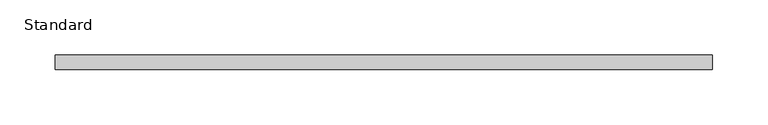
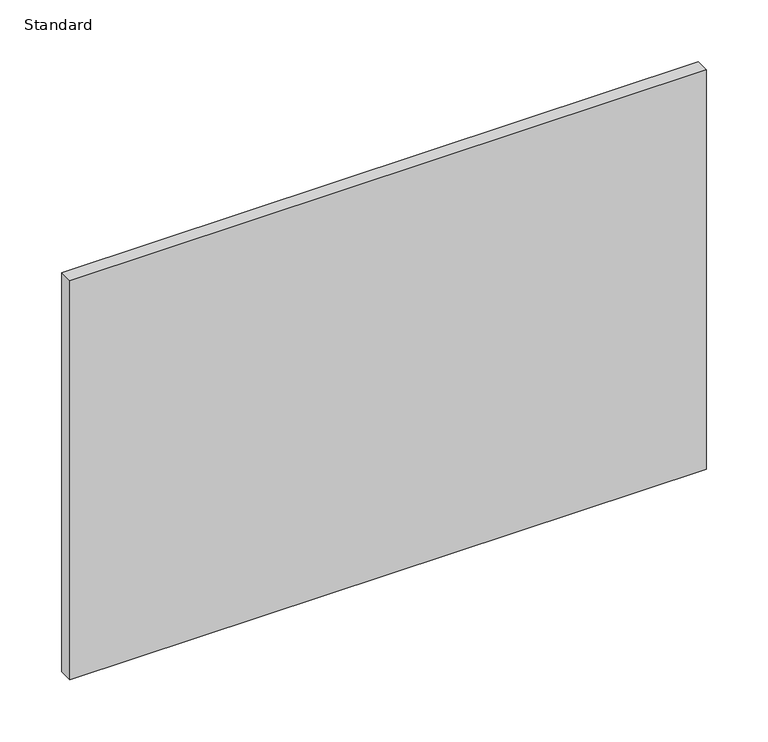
"""IFC4 building model written with IfcOpenShell, lengths in millimetres: furniture geometry, X_Locker-Duracube-Door : Standard."""

import ifcopenshell
import ifcopenshell.guid

model = None  # the IFC model being written
_history = None  # IfcOwnerHistory: only IFC2X3 demands one
_inside = {}  # id of a spatial element -> (the spatial element, [elements in it])
_under = {}  # id of a project, library or spatial element -> (it, [spatial elements below it])
_declared = {}  # id of a project -> (the project, [libraries it declares])
_typed = {}  # id of a type object -> (the type object, [elements of that type])
_made_of = {}  # id of a material, layer set ... -> (it, [elements and type objects made of it])


def new_model(schema):
    """Start an empty IFC model of exactly this schema.

    Asked for "IFC4X3", IfcOpenShell would pick the latest addendum, in which some entities
    have other attributes; the version numbers below select the first issue.
    IFC2X3 requires an IfcOwnerHistory on every rooted entity: one is made here for all.
    """
    global model, _history
    if schema == "IFC4X3":
        model = ifcopenshell.file(schema_version=(4, 3, 0, 0))
    else:
        model = ifcopenshell.file(schema=schema)
    _inside.clear()
    _under.clear()
    _declared.clear()
    _typed.clear()
    _made_of.clear()
    _history = None
    if model.schema == "IFC2X3":
        org = make("IfcOrganization", Name="unknown")
        user = make(
            "IfcPersonAndOrganization",
            ThePerson=make("IfcPerson", FamilyName="unknown"),
            TheOrganization=org,
        )
        app = make(
            "IfcApplication",
            ApplicationDeveloper=org,
            Version="unknown",
            ApplicationFullName="unknown",
            ApplicationIdentifier="unknown",
        )
        _history = make(
            "IfcOwnerHistory",
            OwningUser=user,
            OwningApplication=app,
            ChangeAction="ADDED",
            CreationDate=0,
        )
    return model


def make(cls, **values):
    """One entity of the class cls with the attributes given. An attribute that is None is left unset."""
    return model.create_entity(
        cls, **{name: value for name, value in values.items() if value is not None}
    )


def rooted(cls, **values):
    """An entity with a GlobalId (a new one), such as an element, a storey or a relation."""
    return make(cls, GlobalId=ifcopenshell.guid.new(), OwnerHistory=_history, **values)


def si_unit(unit_type, name, prefix=None):
    """IfcSIUnit, for example si_unit("LENGTHUNIT", "METRE", prefix="MILLI")."""
    return make("IfcSIUnit", UnitType=unit_type, Prefix=prefix, Name=name)


def assignment(units):
    """IfcUnitAssignment: the units of a project."""
    return None if units is None else make("IfcUnitAssignment", Units=units)


def point(xyz):
    """IfcCartesianPoint."""
    return None if xyz is None else make("IfcCartesianPoint", Coordinates=xyz)


def direction(xyz):
    """IfcDirection."""
    return None if xyz is None else make("IfcDirection", DirectionRatios=xyz)


def frame(location, z_axis=None, x_axis=None):
    """IfcAxis2Placement3D, a coordinate frame: its origin and axes. An axis left out is left unset."""
    return make(
        "IfcAxis2Placement3D",
        Location=point(location),
        Axis=direction(z_axis),
        RefDirection=direction(x_axis),
    )


def origin():
    """The frame at (0, 0, 0) with its axes left unset."""
    return frame((0.0, 0.0, 0.0))


def place(relative_to, where):
    """IfcLocalPlacement: puts the frame where relative to a parent placement (None: the world)."""
    return make(
        "IfcLocalPlacement", PlacementRelTo=relative_to, RelativePlacement=where
    )


def context(
    kind, dimensions, precision=None, world=None, true_north=None, identifier=None
):
    """IfcGeometricRepresentationContext, for example the 3D "Model" context."""
    return make(
        "IfcGeometricRepresentationContext",
        ContextIdentifier=identifier,
        ContextType=kind,
        CoordinateSpaceDimension=dimensions,
        Precision=precision,
        WorldCoordinateSystem=world,
        TrueNorth=true_north,
    )


def project(units=None, contexts=None):
    """IfcProject with its units and contexts."""
    return rooted(
        "IfcProject",
        Name="project",
        RepresentationContexts=contexts,
        UnitsInContext=assignment(units),
    )


def spatial(cls, under=None, at=None, **own):
    """A site, building, storey or space (cls), placed at a placement, below another one or the project."""
    s = rooted(cls, ObjectPlacement=at, **own)
    if under is not None:
        _under.setdefault(under.id(), (under, []))[1].append(s)
    return s


def polyline(points):
    """IfcPolyline through the points."""
    return make("IfcPolyline", Points=[point(p) for p in points])


def outline(outer, holes=None, kind="AREA"):
    """IfcArbitraryClosedProfileDef: a profile drawn as a closed curve; with holes, ...WithVoids."""
    if holes is None:
        return make("IfcArbitraryClosedProfileDef", ProfileType=kind, OuterCurve=outer)
    return make(
        "IfcArbitraryProfileDefWithVoids",
        ProfileType=kind,
        OuterCurve=outer,
        InnerCurves=holes,
    )


def extrude(swept, where, along, depth):
    """IfcExtrudedAreaSolid: the profile swept, set in the frame where, extruded along a direction by depth."""
    return make(
        "IfcExtrudedAreaSolid",
        SweptArea=swept,
        Position=where,
        ExtrudedDirection=direction(along),
        Depth=depth,
    )


def shape(context_of_items, identifier, shape_type, items):
    """IfcShapeRepresentation: the items that make up one representation, for example the "Body"."""
    return make(
        "IfcShapeRepresentation",
        ContextOfItems=context_of_items,
        RepresentationIdentifier=identifier,
        RepresentationType=shape_type,
        Items=items,
    )


def source(mapping_origin, context_of_items, identifier, shape_type, items):
    """IfcRepresentationMap: a shape defined once, which mapped items show again and again."""
    return make(
        "IfcRepresentationMap",
        MappingOrigin=mapping_origin,
        MappedRepresentation=shape(context_of_items, identifier, shape_type, items),
    )


def transform(
    local_origin,
    x_axis=None,
    y_axis=None,
    z_axis=None,
    scale=None,
    scale2=None,
    scale3=None,
    uniform=True,
):
    """IfcCartesianTransformationOperator3D, or its non-uniform kind. x_axis, y_axis, z_axis: its Axis1, 2, 3."""
    if uniform:
        return make(
            "IfcCartesianTransformationOperator3D",
            Axis1=direction(x_axis),
            Axis2=direction(y_axis),
            LocalOrigin=point(local_origin),
            Scale=scale,
            Axis3=direction(z_axis),
        )
    return make(
        "IfcCartesianTransformationOperator3DnonUniform",
        Axis1=direction(x_axis),
        Axis2=direction(y_axis),
        LocalOrigin=point(local_origin),
        Scale=scale,
        Axis3=direction(z_axis),
        Scale2=scale2,
        Scale3=scale3,
    )


def mapped(mapping_source, mapping_target):
    """IfcMappedItem: shows the shape of a source again, moved by a transform."""
    return make(
        "IfcMappedItem", MappingSource=mapping_source, MappingTarget=mapping_target
    )


def made_of(thing, what):
    """Note that an element or type object is made of a material, layer set ...; save() writes the relation."""
    if what is not None:
        _made_of.setdefault(what.id(), (what, []))[1].append(thing)
    return thing


def element(
    cls,
    number,
    at=None,
    inside=None,
    cuts=None,
    type_object=None,
    material=None,
    context=None,
    identifier="Body",
    shape_type=None,
    held_by="IfcProductDefinitionShape",
    body=None,
    shapes=None,
    **own,
):
    """One element of the class cls, such as IfcWall. Its Tag is "e" and its number.

    at: its placement. inside: the storey or other place that contains it. cuts: it is an
    opening in that element (IfcRelVoidsElement). A single representation is given by context,
    identifier, shape_type and body (its items); several are given by shapes. held_by: the class
    of the entity that holds the representations. save() writes the other relations.
    """
    e = rooted(cls, Tag="e%d" % number, ObjectPlacement=at, **own)
    if body is not None:
        shapes = [shape(context, identifier, shape_type, body)]
    if shapes is not None:
        e.Representation = make(held_by, Representations=shapes)
    if inside is not None:
        _inside.setdefault(inside.id(), (inside, []))[1].append(e)
    if cuts is not None:
        rooted(
            "IfcRelVoidsElement", RelatingBuildingElement=cuts, RelatedOpeningElement=e
        )
    if type_object is not None:
        _typed.setdefault(type_object.id(), (type_object, []))[1].append(e)
    return made_of(e, material)


def aggregate(whole, parts):
    """IfcRelAggregates: a whole, such as a stair, and the parts it consists of."""
    return rooted("IfcRelAggregates", RelatingObject=whole, RelatedObjects=parts)


def save(model, path):
    """Write the relations noted so far, then the file.

    IfcRelAggregates (storeys below a building ...), IfcRelContainedInSpatialStructure (elements
    in a storey), IfcRelDefinesByType, IfcRelAssociatesMaterial and IfcRelDeclares: one each for
    every whole, place, type object, material and project.
    """
    for whole, parts in _under.values():
        aggregate(whole, parts)
    for where, things in _inside.values():
        rooted(
            "IfcRelContainedInSpatialStructure",
            RelatedElements=things,
            RelatingStructure=where,
        )
    for kind, things in _typed.values():
        rooted("IfcRelDefinesByType", RelatedObjects=things, RelatingType=kind)
    for what, things in _made_of.values():
        rooted("IfcRelAssociatesMaterial", RelatedObjects=things, RelatingMaterial=what)
    for by, libraries in _declared.values():
        rooted("IfcRelDeclares", RelatingContext=by, RelatedDefinitions=libraries)
    model.write(path)


def standard_a5c37325(model_context):
    return source(origin(), model_context, "Body", "SweptSolid", [
        extrude(outline(polyline([(341.7003264, 13.0), (341.7003264, 0.0), (-252.2996736, 0.0), (-252.2996736, 13.0), (341.7003264, 13.0)])), frame((0.0, 0.0, 3.0), z_axis=(0.0, 0.0, 1.0), x_axis=(1.0, 0.0, 0.0)), (0.0, 0.0, 1.0), 394.0),
    ])


if __name__ == "__main__":
    model = new_model("IFC4")
    model_context = context("Model", 3, world=origin())
    ifc_project = project(units=[si_unit("LENGTHUNIT", "METRE", prefix="MILLI")], contexts=[model_context])
    site = spatial("IfcSite", under=ifc_project)
    building = spatial("IfcBuilding", under=site)
    placement = place(None, origin())
    standard_shape = standard_a5c37325(model_context)
    element("IfcFurniture", 1, ObjectType="X_Locker-Duracube-Door : Standard", at=placement, inside=building, context=model_context, shape_type="MappedRepresentation", body=[
        mapped(standard_shape, transform((0.0, 0.0, 0.0), x_axis=(1.0, 0.0, 0.0), y_axis=(0.0, 1.0, 0.0), z_axis=(0.0, 0.0, 1.0))),
    ])
    save(model, "model.ifc")
